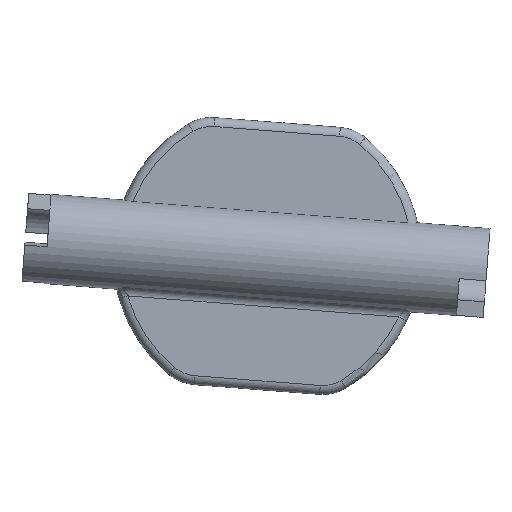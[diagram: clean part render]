
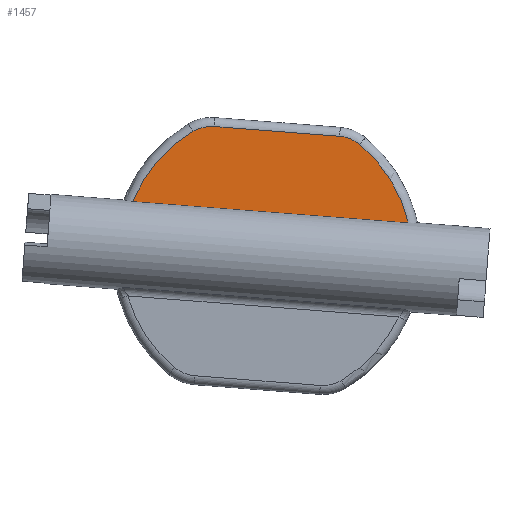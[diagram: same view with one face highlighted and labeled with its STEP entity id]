
A CAD part, front view. The second image highlights one B-rep face of the part: STEP entity #1457.
In plain terms, the highlighted planar face has unit normal (0, -1, 0).
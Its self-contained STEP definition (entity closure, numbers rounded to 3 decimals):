
#1=DIRECTION('',(0.997,0.,-0.077));
#2=VECTOR('',#1,30.925);
#3=CARTESIAN_POINT('',(1163.813,-1.,102.387));
#4=LINE('',#3,#2);
#5=CARTESIAN_POINT('',(1178.85,-1.,96.307));
#6=DIRECTION('',(0.,1.,0.));
#7=DIRECTION('',(-0.927,0.,0.375));
#8=AXIS2_PLACEMENT_3D('',#5,#6,#7);
#10=CARTESIAN_POINT('',(1172.593,-1.,106.804));
#11=DIRECTION('',(0.,1.,0.));
#12=DIRECTION('',(-0.512,0.,0.859));
#13=AXIS2_PLACEMENT_3D('',#10,#11,#12);
#15=DIRECTION('',(0.997,0.,-0.077));
#16=VECTOR('',#15,14.1);
#17=CARTESIAN_POINT('',(1172.902,-1.,110.792));
#18=LINE('',#17,#16);
#19=CARTESIAN_POINT('',(1186.65,-1.,105.714));
#20=DIRECTION('',(0.,1.,0.));
#21=DIRECTION('',(0.077,0.,0.997));
#22=AXIS2_PLACEMENT_3D('',#19,#20,#21);
#24=CARTESIAN_POINT('',(1178.85,-1.,96.307));
#25=DIRECTION('',(0.,1.,0.));
#26=DIRECTION('',(0.638,0.,0.77));
#27=AXIS2_PLACEMENT_3D('',#24,#25,#26);
#1260=CARTESIAN_POINT('',(1163.813,-1.,102.387));
#1261=CARTESIAN_POINT('',(1194.645,-1.,99.996));
#1262=VERTEX_POINT('',#1260);
#1263=VERTEX_POINT('',#1261);
#1430=CARTESIAN_POINT('',(1186.96,-1.,109.702));
#1431=CARTESIAN_POINT('',(1189.204,-1.,108.793));
#1432=VERTEX_POINT('',#1430);
#1433=VERTEX_POINT('',#1431);
#1434=CARTESIAN_POINT('',(1170.545,-1.,110.24));
#1435=VERTEX_POINT('',#1434);
#1436=CARTESIAN_POINT('',(1172.902,-1.,110.792));
#1437=VERTEX_POINT('',#1436);
#1438=CARTESIAN_POINT('',(0.,-1.,0.));
#1439=DIRECTION('',(0.,1.,0.));
#1440=DIRECTION('',(1.,0.,0.));
#1441=AXIS2_PLACEMENT_3D('',#1438,#1439,#1440);
#1442=PLANE('',#1441);
#1444=ORIENTED_EDGE('',*,*,#1443,.F.);
#1446=ORIENTED_EDGE('',*,*,#1445,.T.);
#1448=ORIENTED_EDGE('',*,*,#1447,.T.);
#1450=ORIENTED_EDGE('',*,*,#1449,.T.);
#1452=ORIENTED_EDGE('',*,*,#1451,.T.);
#1454=ORIENTED_EDGE('',*,*,#1453,.T.);
#1455=EDGE_LOOP('',(#1444,#1446,#1448,#1450,#1452,#1454));
#1456=FACE_OUTER_BOUND('',#1455,.F.);
#1457=ADVANCED_FACE('',(#1456),#1442,.F.);
#9=CIRCLE('',#8,16.22);
#14=CIRCLE('',#13,4.);
#23=CIRCLE('',#22,4.);
#28=CIRCLE('',#27,16.22);
#1443=EDGE_CURVE('',#1262,#1263,#4,.T.);
#1445=EDGE_CURVE('',#1262,#1435,#9,.T.);
#1447=EDGE_CURVE('',#1435,#1437,#14,.T.);
#1449=EDGE_CURVE('',#1437,#1432,#18,.T.);
#1451=EDGE_CURVE('',#1432,#1433,#23,.T.);
#1453=EDGE_CURVE('',#1433,#1263,#28,.T.);
